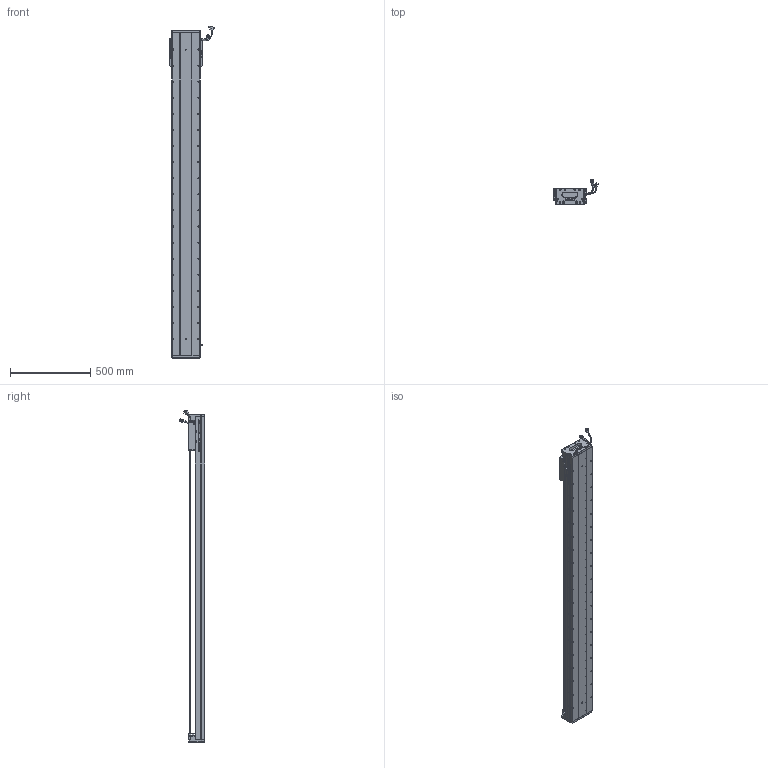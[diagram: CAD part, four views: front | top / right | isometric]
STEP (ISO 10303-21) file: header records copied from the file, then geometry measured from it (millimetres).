
FILE_DESCRIPTION (( 'STEP AP203' ), '1' );
FILE_NAME ('Z2-RY170D-1-L500-B-K.SLDASM_1750.step', '2021-05-17T09:08:58', ( '盈信电脑' ), ( '东莞市道滘镇水果街19号' ), 'SwSTEP 2.0', 'SolidWorks 2016', '' );
FILE_SCHEMA (( 'CONFIG_CONTROL_DESIGN' ));
Length unit declared in the file: millimetre
Products named in the file (36): SCREW-M1.6-3; SHIELDPLATE; SCREW-M1.7; SEAL; SEAL-Part-1; SCALE-Part-1; Z-RY170詩湍奻揤裔; LABEL-Part-1; SCREW-M1.6; PBU_SHEET; 140蚥薯蝶輸; SCALE-Part-2; RY170直线电机感应器672光电感应片; PSLH080_PSLF2; HARNESS-Part-1; HARNESS-Part-2; Z2-RY170-L500耀郪菁釱_1750; 170-Z-臏賑輸盄裔(21遴); Z-170詩湍傷裔啣; LABEL; SCALE; SCREW-M1.7-1; 覜茼ん672; Z2-RY170D-1-L500-B-K.SLDASM_1750; 080黍杅芛假蚾釱21遴; HARNESS; Z2-RY170臏賑輸(21遴); HOLDER0; 榋妏寠巭燃_暯_M2_2; SCREW-M1.6-1; Z2-RY170-L500詩湍145mm遵_1750; COVER; Z-RY170詩湍狟揤裔; COVER-Part-1; SCREW-M1.6-2; 140雄赽晤鎢ん堤盄
Assembly tree (41 placements, depth 4):
  Z2-RY170D-1-L500-B-K.SLDASM_1750
    Z2-RY170-L500耀郪菁釱_1750
    RY170直线电机感应器672光电感应片
    Z2-RY170臏賑輸(21遴)
    覜茼ん672  x3
    PSLH080_PSLF2
      SCALE
        SCALE-Part-1
        SCALE-Part-2
      HARNESS
        HARNESS-Part-1
        HARNESS-Part-2
      LABEL
        LABEL-Part-1
      COVER
        COVER-Part-1
      SEAL
        SEAL-Part-1
      榋妏寠巭燃_暯_M2_2
      SHIELDPLATE
      SCREW-M1.7
      SCREW-M1.7-1
      PBU_SHEET
      SCREW-M1.6
      SCREW-M1.6-1
      SCREW-M1.6-2
      SCREW-M1.6-3
      HOLDER0
    080黍杅芛假蚾釱21遴
    Z2-RY170-L500詩湍145mm遵_1750
    Z-170詩湍傷裔啣  x2
    Z-RY170詩湍奻揤裔  x2
    Z-RY170詩湍狟揤裔  x2
    140蚥薯蝶輸  x2
    170-Z-臏賑輸盄裔(21遴)
    140雄赽晤鎢ん堤盄
Bounding box: 275.34 x 158.11 x 2063.72 mm (x, y, z)
Volume: 10387082.1 mm3; surface area: 2562919.2 mm2
Topology: 36 solids, 36 shells, 3644 faces, 9971 edges, 6235 vertices
Faces by surface type: cylinder 1770, plane 1248, cone 504, torus 69, bspline 53
Entity records: 111787 total; most frequent: CARTESIAN_POINT 30244, ORIENTED_EDGE 16538, DIRECTION 15741, EDGE_CURVE 8269, AXIS2_PLACEMENT_3D 5790, VERTEX_POINT 5353, LINE 4161, VECTOR 4161
